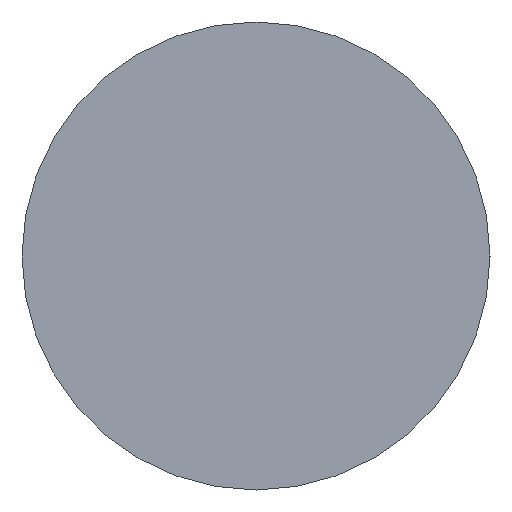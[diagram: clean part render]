
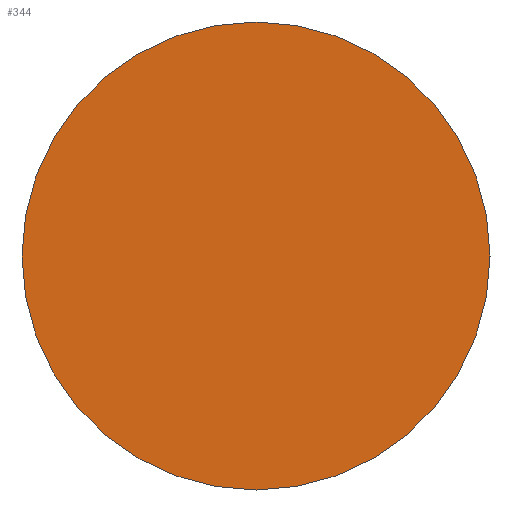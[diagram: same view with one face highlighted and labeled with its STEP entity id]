
A CAD part, left-side view. The second image highlights one B-rep face of the part: STEP entity #344.
In plain terms, the highlighted planar face has unit normal (-1, 0, 0).
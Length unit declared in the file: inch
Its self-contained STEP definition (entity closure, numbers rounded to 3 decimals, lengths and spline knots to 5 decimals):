
#50 = FACE_OUTER_BOUND ( 'NONE', #546, .T. ) ;
#72 = AXIS2_PLACEMENT_3D ( 'NONE', #302, #245, #439 ) ;
#98 = CARTESIAN_POINT ( 'NONE',  ( -4., 0.3125, 0. ) ) ;
#102 = DIRECTION ( 'NONE',  ( 1., 0., 0. ) ) ;
#113 = CARTESIAN_POINT ( 'NONE',  ( -4., 0., 0.3125 ) ) ;
#131 = VERTEX_POINT ( 'NONE', #113 ) ;
#136 = DIRECTION ( 'NONE',  ( -1., 0., 0. ) ) ;
#245 = DIRECTION ( 'NONE',  ( -1., 0., 0. ) ) ;
#271 = EDGE_CURVE ( 'NONE', #388, #131, #613, .T. ) ;
#294 = DIRECTION ( 'NONE',  ( 0., 0., -1. ) ) ;
#297 = CIRCLE ( 'NONE', #72, 0.3125 ) ;
#302 = CARTESIAN_POINT ( 'NONE',  ( -4., 0., 0. ) ) ;
#332 = EDGE_CURVE ( 'NONE', #131, #388, #297, .T. ) ;
#335 = AXIS2_PLACEMENT_3D ( 'NONE', #98, #102, #294 ) ;
#344 = ADVANCED_FACE ( 'NONE', ( #50 ), #380, .F. ) ;
#380 = PLANE ( 'NONE',  #335 ) ;
#388 = VERTEX_POINT ( 'NONE', #554 ) ;
#417 = ORIENTED_EDGE ( 'NONE', *, *, #332, .T. ) ;
#422 = CARTESIAN_POINT ( 'NONE',  ( -4., 0., 0. ) ) ;
#424 = AXIS2_PLACEMENT_3D ( 'NONE', #422, #136, #562 ) ;
#439 = DIRECTION ( 'NONE',  ( 0., 0., 1. ) ) ;
#546 = EDGE_LOOP ( 'NONE', ( #417, #575 ) ) ;
#554 = CARTESIAN_POINT ( 'NONE',  ( -4., 0., -0.3125 ) ) ;
#562 = DIRECTION ( 'NONE',  ( 0., 0., 1. ) ) ;
#575 = ORIENTED_EDGE ( 'NONE', *, *, #271, .T. ) ;
#613 = CIRCLE ( 'NONE', #424, 0.3125 ) ;
